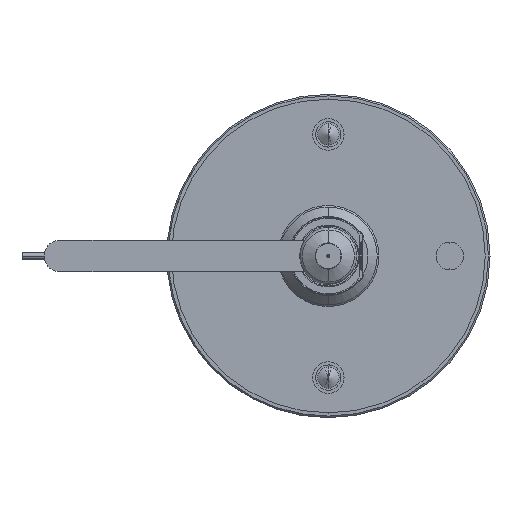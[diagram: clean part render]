
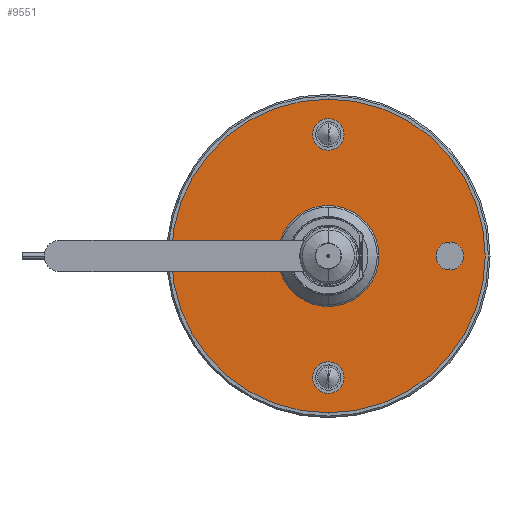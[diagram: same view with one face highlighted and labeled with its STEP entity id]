
A CAD part, front view. The second image highlights one B-rep face of the part: STEP entity #9551.
In plain terms, the highlighted planar face has unit normal (0, -1, 0) as drawn and (0, 0, -1) by its records, which use the part's own axes.
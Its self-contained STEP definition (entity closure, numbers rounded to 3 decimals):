
#344 = VERTEX_POINT ( 'NONE', #10231 ) ;
#362 = CARTESIAN_POINT ( 'NONE',  ( -33.5, 0., 0. ) ) ;
#386 = AXIS2_PLACEMENT_3D ( 'NONE', #17259, #21319, #7254 ) ;
#642 = EDGE_CURVE ( 'NONE', #22305, #344, #10673, .T. ) ;
#690 = DIRECTION ( 'NONE',  ( -1., 0., 0. ) ) ;
#807 = CIRCLE ( 'NONE', #386, 4.4 ) ;
#855 = ORIENTED_EDGE ( 'NONE', *, *, #9987, .T. ) ;
#1100 = DIRECTION ( 'NONE',  ( 0., 0., -1. ) ) ;
#1640 = AXIS2_PLACEMENT_3D ( 'NONE', #16375, #20313, #16121 ) ;
#1885 = CARTESIAN_POINT ( 'NONE',  ( 10.5, 0., 0. ) ) ;
#2145 = DIRECTION ( 'NONE',  ( -1., 0., 0. ) ) ;
#2180 = DIRECTION ( 'NONE',  ( 0., 0., 1. ) ) ;
#2365 = ORIENTED_EDGE ( 'NONE', *, *, #21910, .T. ) ;
#2484 = ORIENTED_EDGE ( 'NONE', *, *, #17313, .T. ) ;
#2519 = CIRCLE ( 'NONE', #6694, 49.675 ) ;
#2721 = CIRCLE ( 'NONE', #11539, 10.5 ) ;
#3290 = DIRECTION ( 'NONE',  ( -1., 0., 0. ) ) ;
#3516 = CIRCLE ( 'NONE', #6424, 49.675 ) ;
#4108 = EDGE_CURVE ( 'NONE', #5218, #6383, #11620, .T. ) ;
#4765 = CIRCLE ( 'NONE', #14443, 4.4 ) ;
#5178 = CARTESIAN_POINT ( 'NONE',  ( 38.5, 0., 0. ) ) ;
#5195 = VERTEX_POINT ( 'NONE', #24310 ) ;
#5218 = VERTEX_POINT ( 'NONE', #20128 ) ;
#5353 = DIRECTION ( 'NONE',  ( 0., 0., 1. ) ) ;
#5597 = EDGE_CURVE ( 'NONE', #5727, #11290, #19796, .T. ) ;
#5727 = VERTEX_POINT ( 'NONE', #9132 ) ;
#5967 = CARTESIAN_POINT ( 'NONE',  ( 4.4, -38.5, 0. ) ) ;
#6383 = VERTEX_POINT ( 'NONE', #362 ) ;
#6424 = AXIS2_PLACEMENT_3D ( 'NONE', #9391, #1100, #18986 ) ;
#6694 = AXIS2_PLACEMENT_3D ( 'NONE', #14398, #18719, #690 ) ;
#6865 = EDGE_LOOP ( 'NONE', ( #18724, #2484 ) ) ;
#7162 = EDGE_LOOP ( 'NONE', ( #24549, #16718 ) ) ;
#7254 = DIRECTION ( 'NONE',  ( -1., 0., 0. ) ) ;
#7857 = EDGE_LOOP ( 'NONE', ( #24047, #14621 ) ) ;
#7941 = CIRCLE ( 'NONE', #1640, 4.4 ) ;
#8044 = PLANE ( 'NONE',  #21378 ) ;
#8784 = EDGE_LOOP ( 'NONE', ( #16020, #2365 ) ) ;
#8870 = DIRECTION ( 'NONE',  ( -1., 0., 0. ) ) ;
#9132 = CARTESIAN_POINT ( 'NONE',  ( 43.5, 0., 0. ) ) ;
#9311 = EDGE_CURVE ( 'NONE', #12840, #22199, #807, .T. ) ;
#9391 = CARTESIAN_POINT ( 'NONE',  ( 0., 0., 0. ) ) ;
#9551 = ADVANCED_FACE ( 'NONE', ( #20266, #17796, #21852, #15677, #11884, #19888 ), #8044, .T. ) ;
#9987 = EDGE_CURVE ( 'NONE', #11290, #5727, #25617, .T. ) ;
#10231 = CARTESIAN_POINT ( 'NONE',  ( 10.5, 0., 0. ) ) ;
#10244 = EDGE_CURVE ( 'NONE', #14787, #5195, #2519, .T. ) ;
#10318 = CARTESIAN_POINT ( 'NONE',  ( -10.5, 0., 0. ) ) ;
#10324 = EDGE_CURVE ( 'NONE', #13730, #13770, #15981, .T. ) ;
#10407 = ORIENTED_EDGE ( 'NONE', *, *, #10324, .T. ) ;
#10597 = CIRCLE ( 'NONE', #14374, 5. ) ;
#10673 = CIRCLE ( 'NONE', #16547, 10.5 ) ;
#11280 = CARTESIAN_POINT ( 'NONE',  ( -38.5, 0., 0. ) ) ;
#11290 = VERTEX_POINT ( 'NONE', #12877 ) ;
#11539 = AXIS2_PLACEMENT_3D ( 'NONE', #25734, #5353, #21656 ) ;
#11620 = CIRCLE ( 'NONE', #22486, 5. ) ;
#11884 = FACE_BOUND ( 'NONE', #6865, .T. ) ;
#12611 = EDGE_LOOP ( 'NONE', ( #10407, #18548 ) ) ;
#12840 = VERTEX_POINT ( 'NONE', #20437 ) ;
#12877 = CARTESIAN_POINT ( 'NONE',  ( 33.5, 0., 0. ) ) ;
#12928 = EDGE_CURVE ( 'NONE', #13770, #13730, #7941, .T. ) ;
#13173 = EDGE_LOOP ( 'NONE', ( #855, #21518 ) ) ;
#13515 = CARTESIAN_POINT ( 'NONE',  ( 49.675, 0., 0. ) ) ;
#13730 = VERTEX_POINT ( 'NONE', #19045 ) ;
#13770 = VERTEX_POINT ( 'NONE', #24126 ) ;
#14302 = AXIS2_PLACEMENT_3D ( 'NONE', #21645, #25593, #19154 ) ;
#14374 = AXIS2_PLACEMENT_3D ( 'NONE', #11280, #18902, #19286 ) ;
#14398 = CARTESIAN_POINT ( 'NONE',  ( 0., 0., 0. ) ) ;
#14443 = AXIS2_PLACEMENT_3D ( 'NONE', #19839, #25755, #3290 ) ;
#14621 = ORIENTED_EDGE ( 'NONE', *, *, #642, .T. ) ;
#14787 = VERTEX_POINT ( 'NONE', #13515 ) ;
#15677 = FACE_BOUND ( 'NONE', #13173, .T. ) ;
#15981 = CIRCLE ( 'NONE', #18081, 4.4 ) ;
#16020 = ORIENTED_EDGE ( 'NONE', *, *, #9311, .T. ) ;
#16121 = DIRECTION ( 'NONE',  ( -1., 0., 0. ) ) ;
#16375 = CARTESIAN_POINT ( 'NONE',  ( 0., 38.5, 0. ) ) ;
#16547 = AXIS2_PLACEMENT_3D ( 'NONE', #24369, #2180, #24501 ) ;
#16718 = ORIENTED_EDGE ( 'NONE', *, *, #20861, .T. ) ;
#17130 = DIRECTION ( 'NONE',  ( 0., 0., 1. ) ) ;
#17259 = CARTESIAN_POINT ( 'NONE',  ( 0., -38.5, 0. ) ) ;
#17313 = EDGE_CURVE ( 'NONE', #6383, #5218, #10597, .T. ) ;
#17393 = CARTESIAN_POINT ( 'NONE',  ( 0., 38.5, 0. ) ) ;
#17796 = FACE_BOUND ( 'NONE', #8784, .T. ) ;
#18081 = AXIS2_PLACEMENT_3D ( 'NONE', #17393, #17130, #21583 ) ;
#18548 = ORIENTED_EDGE ( 'NONE', *, *, #12928, .T. ) ;
#18719 = DIRECTION ( 'NONE',  ( 0., 0., -1. ) ) ;
#18724 = ORIENTED_EDGE ( 'NONE', *, *, #4108, .T. ) ;
#18902 = DIRECTION ( 'NONE',  ( 0., 0., 1. ) ) ;
#18938 = AXIS2_PLACEMENT_3D ( 'NONE', #5178, #21076, #8870 ) ;
#18986 = DIRECTION ( 'NONE',  ( -1., 0., 0. ) ) ;
#19045 = CARTESIAN_POINT ( 'NONE',  ( -4.4, 38.5, 0. ) ) ;
#19154 = DIRECTION ( 'NONE',  ( -1., 0., 0. ) ) ;
#19286 = DIRECTION ( 'NONE',  ( -1., 0., 0. ) ) ;
#19796 = CIRCLE ( 'NONE', #18938, 5. ) ;
#19839 = CARTESIAN_POINT ( 'NONE',  ( 0., -38.5, 0. ) ) ;
#19888 = FACE_BOUND ( 'NONE', #7857, .T. ) ;
#19952 = DIRECTION ( 'NONE',  ( 0., 0., 1. ) ) ;
#20128 = CARTESIAN_POINT ( 'NONE',  ( -43.5, 0., 0. ) ) ;
#20146 = DIRECTION ( 'NONE',  ( 0., 0., -1. ) ) ;
#20201 = DIRECTION ( 'NONE',  ( -1., 0., 0. ) ) ;
#20266 = FACE_OUTER_BOUND ( 'NONE', #7162, .T. ) ;
#20313 = DIRECTION ( 'NONE',  ( 0., 0., 1. ) ) ;
#20437 = CARTESIAN_POINT ( 'NONE',  ( -4.4, -38.5, 0. ) ) ;
#20861 = EDGE_CURVE ( 'NONE', #5195, #14787, #3516, .T. ) ;
#21076 = DIRECTION ( 'NONE',  ( 0., 0., 1. ) ) ;
#21319 = DIRECTION ( 'NONE',  ( 0., 0., 1. ) ) ;
#21378 = AXIS2_PLACEMENT_3D ( 'NONE', #1885, #20146, #2145 ) ;
#21518 = ORIENTED_EDGE ( 'NONE', *, *, #5597, .T. ) ;
#21583 = DIRECTION ( 'NONE',  ( -1., 0., 0. ) ) ;
#21645 = CARTESIAN_POINT ( 'NONE',  ( 38.5, 0., 0. ) ) ;
#21656 = DIRECTION ( 'NONE',  ( 1., 0., 0. ) ) ;
#21852 = FACE_BOUND ( 'NONE', #12611, .T. ) ;
#21910 = EDGE_CURVE ( 'NONE', #22199, #12840, #4765, .T. ) ;
#22199 = VERTEX_POINT ( 'NONE', #5967 ) ;
#22287 = CARTESIAN_POINT ( 'NONE',  ( -38.5, 0., 0. ) ) ;
#22305 = VERTEX_POINT ( 'NONE', #10318 ) ;
#22486 = AXIS2_PLACEMENT_3D ( 'NONE', #22287, #19952, #20201 ) ;
#23389 = EDGE_CURVE ( 'NONE', #344, #22305, #2721, .T. ) ;
#24047 = ORIENTED_EDGE ( 'NONE', *, *, #23389, .T. ) ;
#24126 = CARTESIAN_POINT ( 'NONE',  ( 4.4, 38.5, 0. ) ) ;
#24310 = CARTESIAN_POINT ( 'NONE',  ( -49.675, 0., 0. ) ) ;
#24369 = CARTESIAN_POINT ( 'NONE',  ( 0., 0., 0. ) ) ;
#24501 = DIRECTION ( 'NONE',  ( 1., 0., 0. ) ) ;
#24549 = ORIENTED_EDGE ( 'NONE', *, *, #10244, .T. ) ;
#25593 = DIRECTION ( 'NONE',  ( 0., 0., 1. ) ) ;
#25617 = CIRCLE ( 'NONE', #14302, 5. ) ;
#25734 = CARTESIAN_POINT ( 'NONE',  ( 0., 0., 0. ) ) ;
#25755 = DIRECTION ( 'NONE',  ( 0., 0., 1. ) ) ;
